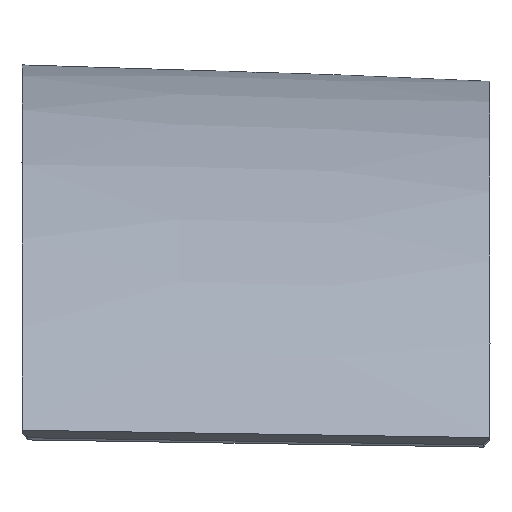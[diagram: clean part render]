
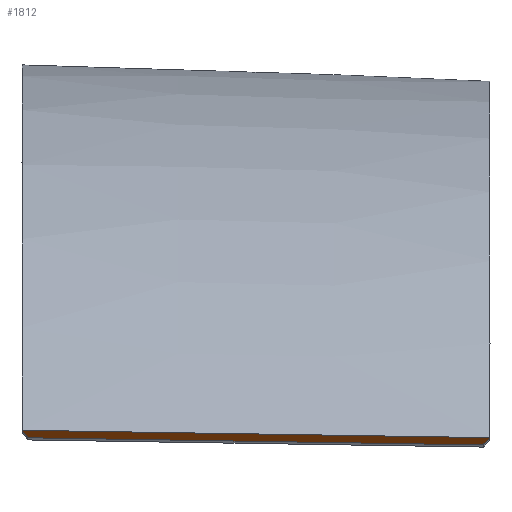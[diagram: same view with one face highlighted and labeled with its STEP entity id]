
A CAD part, top view. The second image highlights one B-rep face of the part: STEP entity #1812.
In plain terms, the highlighted free-form (B-spline) face has degree [1, 3] with [2, 4] control points.
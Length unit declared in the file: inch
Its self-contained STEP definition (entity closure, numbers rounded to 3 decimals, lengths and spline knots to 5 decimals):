
#58 = EDGE_CURVE ( 'NONE', #1786, #2213, #1985, .T. ) ;
#256 = CARTESIAN_POINT ( 'NONE',  ( -0.11905, -101.69365, 31.5808 ) ) ;
#279 = B_SPLINE_CURVE_WITH_KNOTS ( 'NONE', 3,
 ( #401, #2114, #256, #1165 ),
 .UNSPECIFIED., .F., .F.,
 ( 4, 4 ),
 ( 0., 1. ),
 .UNSPECIFIED. ) ;
#295 = CARTESIAN_POINT ( 'NONE',  ( -15.94792, -101.6959, 31.57863 ) ) ;
#318 = CARTESIAN_POINT ( 'NONE',  ( -7.98958, -101.8209, 31.36212 ) ) ;
#324 = EDGE_CURVE ( 'NONE', #868, #2366, #1927, .T. ) ;
#401 = CARTESIAN_POINT ( 'NONE',  ( -0.34176, -101.94102, 31.15406 ) ) ;
#436 = CARTESIAN_POINT ( 'NONE',  ( -0.0077, -101.56996, 31.79416 ) ) ;
#442 = EDGE_CURVE ( 'NONE', #2213, #2366, #279, .T. ) ;
#511 = CARTESIAN_POINT ( 'NONE',  ( -15.92437, -101.31997, 32.22719 ) ) ;
#614 = CARTESIAN_POINT ( 'NONE',  ( -7.96603, -101.44497, 32.01068 ) ) ;
#674 = B_SPLINE_SURFACE_WITH_KNOTS ( 'NONE', 1, 3, ( 
 ( #694, #511, #1233, #1059 ),
 ( #1991, #295, #318, #2209 ) ),
 .UNSPECIFIED., .F., .F., .F.,
 ( 2, 2 ),
 ( 4, 4 ),
 ( 0., 1. ),
 ( -0.30336, 0.30336 ),
 .UNSPECIFIED. ) ;
#694 = CARTESIAN_POINT ( 'NONE',  ( -23.8827, -101.19498, 32.4437 ) ) ;
#868 = VERTEX_POINT ( 'NONE', #1656 ) ;
#1027 = ORIENTED_EDGE ( 'NONE', *, *, #2442, .T. ) ;
#1059 = CARTESIAN_POINT ( 'NONE',  ( -0.0077, -101.56996, 31.79416 ) ) ;
#1064 = ORIENTED_EDGE ( 'NONE', *, *, #58, .T. ) ;
#1077 = B_SPLINE_CURVE_WITH_KNOTS ( 'NONE', 3,
 ( #1183, #1209, #1378, #2131 ),
 .UNSPECIFIED., .F., .F.,
 ( 4, 4 ),
 ( 0., 1. ),
 .UNSPECIFIED. ) ;
#1090 = ORIENTED_EDGE ( 'NONE', *, *, #442, .T. ) ;
#1101 = CARTESIAN_POINT ( 'NONE',  ( -8.09309, -101.81927, 31.36494 ) ) ;
#1165 = CARTESIAN_POINT ( 'NONE',  ( -0.0077, -101.56996, 31.79416 ) ) ;
#1183 = CARTESIAN_POINT ( 'NONE',  ( -23.8827, -101.19498, 32.4437 ) ) ;
#1209 = CARTESIAN_POINT ( 'NONE',  ( -23.78705, -101.32191, 32.2247 ) ) ;
#1233 = CARTESIAN_POINT ( 'NONE',  ( -7.96603, -101.44497, 32.01068 ) ) ;
#1300 = CARTESIAN_POINT ( 'NONE',  ( -23.59574, -101.57578, 31.78669 ) ) ;
#1378 = CARTESIAN_POINT ( 'NONE',  ( -23.6914, -101.44885, 32.00569 ) ) ;
#1656 = CARTESIAN_POINT ( 'NONE',  ( -23.8827, -101.19498, 32.4437 ) ) ;
#1699 = CARTESIAN_POINT ( 'NONE',  ( -15.84441, -101.69753, 31.57582 ) ) ;
#1786 = VERTEX_POINT ( 'NONE', #2359 ) ;
#1812 = ADVANCED_FACE ( 'NONE', ( #2003 ), #674, .T. ) ;
#1872 = ORIENTED_EDGE ( 'NONE', *, *, #324, .F. ) ;
#1927 = B_SPLINE_CURVE_WITH_KNOTS ( 'NONE', 3,
 ( #2321, #2136, #614, #2288 ),
 .UNSPECIFIED., .F., .F.,
 ( 4, 4 ),
 ( 0., 1. ),
 .UNSPECIFIED. ) ;
#1985 = B_SPLINE_CURVE_WITH_KNOTS ( 'NONE', 3,
 ( #1300, #1699, #1101, #2275 ),
 .UNSPECIFIED., .F., .F.,
 ( 4, 4 ),
 ( 0.01301, 0.98699 ),
 .UNSPECIFIED. ) ;
#1991 = CARTESIAN_POINT ( 'NONE',  ( -23.90625, -101.5709, 31.79514 ) ) ;
#2003 = FACE_OUTER_BOUND ( 'NONE', #2263, .T. ) ;
#2114 = CARTESIAN_POINT ( 'NONE',  ( -0.23041, -101.81734, 31.36743 ) ) ;
#2131 = CARTESIAN_POINT ( 'NONE',  ( -23.59574, -101.57578, 31.78669 ) ) ;
#2136 = CARTESIAN_POINT ( 'NONE',  ( -15.92437, -101.31997, 32.22719 ) ) ;
#2209 = CARTESIAN_POINT ( 'NONE',  ( -0.03125, -101.9459, 31.14562 ) ) ;
#2213 = VERTEX_POINT ( 'NONE', #2381 ) ;
#2263 = EDGE_LOOP ( 'NONE', ( #1872, #1027, #1064, #1090 ) ) ;
#2275 = CARTESIAN_POINT ( 'NONE',  ( -0.34176, -101.94102, 31.15406 ) ) ;
#2288 = CARTESIAN_POINT ( 'NONE',  ( -0.0077, -101.56996, 31.79416 ) ) ;
#2321 = CARTESIAN_POINT ( 'NONE',  ( -23.8827, -101.19498, 32.4437 ) ) ;
#2359 = CARTESIAN_POINT ( 'NONE',  ( -23.59574, -101.57578, 31.78669 ) ) ;
#2366 = VERTEX_POINT ( 'NONE', #436 ) ;
#2381 = CARTESIAN_POINT ( 'NONE',  ( -0.34176, -101.94102, 31.15406 ) ) ;
#2442 = EDGE_CURVE ( 'NONE', #868, #1786, #1077, .T. ) ;
